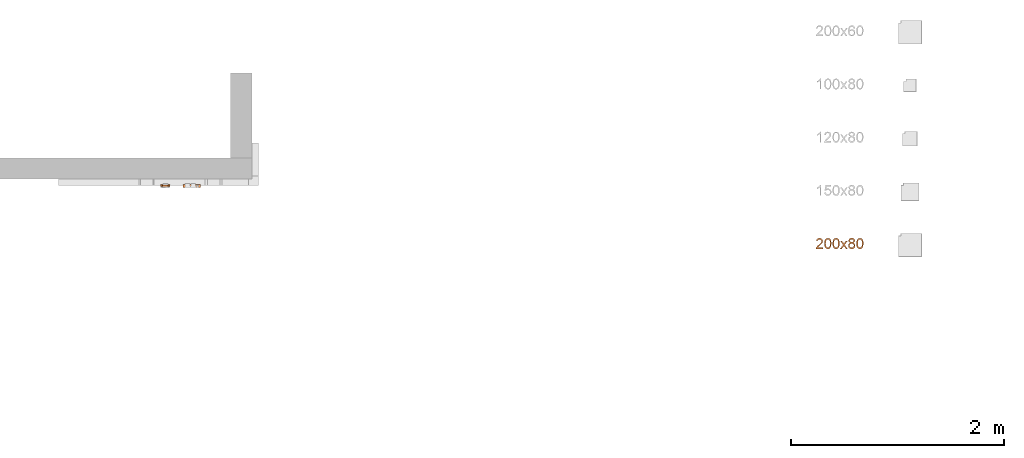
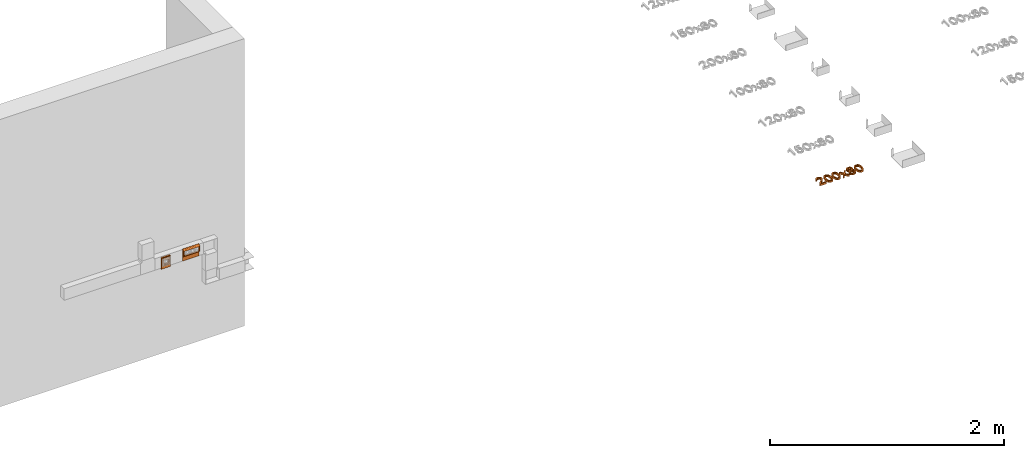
# One storey, part 40 of 71: 4 proxies, 1 opening.
"""IFC2X3 building model written with IfcOpenShell, lengths in millimetres."""

from ifc_helpers import new_model, entity, si_unit, converted_unit, derived_unit, direction, frame, frame_2d, origin, place, context, subcontext, project, spatial, polyline, circle_curve, parameter, trimmed, segment, composite_curve, circle, outline, extrude, faceted_brep, source, transform, mapped, material, type_object, type_shapes, element, save


model = new_model("IFC2X3")

# Units and contexts
model_context = context("Model", 3, precision=0.01, world=origin(), true_north=direction((6.12303176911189e-17, 1.0)))
body_context = subcontext(model_context, "Body", "Model", "MODEL_VIEW")
ifc_project = project(units=[si_unit("LENGTHUNIT", "METRE", prefix="MILLI"), si_unit("AREAUNIT", "SQUARE_METRE"), si_unit("VOLUMEUNIT", "CUBIC_METRE"), converted_unit("PLANEANGLEUNIT", "DEGREE", entity("IfcRatioMeasure", 0.0174532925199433), si_unit("PLANEANGLEUNIT", "RADIAN"), dimensions=[0, 0, 0, 0, 0, 0, 0]), si_unit("MASSUNIT", "GRAM", prefix="KILO"), derived_unit("MASSDENSITYUNIT", [(si_unit("MASSUNIT", "GRAM", prefix="KILO"), 1), (si_unit("LENGTHUNIT", "METRE"), -3)]), si_unit("TIMEUNIT", "SECOND"), si_unit("FREQUENCYUNIT", "HERTZ"), si_unit("THERMODYNAMICTEMPERATUREUNIT", "DEGREE_CELSIUS"), derived_unit("THERMALTRANSMITTANCEUNIT", [(si_unit("MASSUNIT", "GRAM", prefix="KILO"), 1), (si_unit("THERMODYNAMICTEMPERATUREUNIT", "KELVIN"), -1), (si_unit("TIMEUNIT", "SECOND"), -3)]), derived_unit("VOLUMETRICFLOWRATEUNIT", [(si_unit("LENGTHUNIT", "METRE"), 3), (si_unit("TIMEUNIT", "SECOND"), -1)]), si_unit("ELECTRICCURRENTUNIT", "AMPERE"), si_unit("ELECTRICVOLTAGEUNIT", "VOLT"), si_unit("POWERUNIT", "WATT"), si_unit("FORCEUNIT", "NEWTON", prefix="KILO"), si_unit("ILLUMINANCEUNIT", "LUX"), si_unit("LUMINOUSFLUXUNIT", "LUMEN"), si_unit("LUMINOUSINTENSITYUNIT", "CANDELA"), derived_unit("USERDEFINED", [(si_unit("MASSUNIT", "GRAM", prefix="KILO"), -1), (si_unit("LENGTHUNIT", "METRE"), -2), (si_unit("TIMEUNIT", "SECOND"), 3), (si_unit("LUMINOUSFLUXUNIT", "LUMEN"), 1)]), derived_unit("LINEARVELOCITYUNIT", [(si_unit("LENGTHUNIT", "METRE"), 1), (si_unit("TIMEUNIT", "SECOND"), -1)]), si_unit("PRESSUREUNIT", "PASCAL"), derived_unit("USERDEFINED", [(si_unit("LENGTHUNIT", "METRE"), -2), (si_unit("MASSUNIT", "GRAM", prefix="KILO"), 1), (si_unit("TIMEUNIT", "SECOND"), -2)])], contexts=[model_context])

# Site, building, storey
site_placement = place(None, origin())
site = spatial("IfcSite", under=ifc_project, at=site_placement, Name="Default", CompositionType="ELEMENT")
building_placement = place(site_placement, origin())
building = spatial("IfcBuilding", under=site, at=building_placement, Name="Наименование здания", CompositionType="ELEMENT")
storey_placement = place(building_placement, origin())
storey = spatial("IfcBuildingStorey", under=building, at=storey_placement, Name="Этаж 01", CompositionType="ELEMENT", Elevation=0.0)

# Proxy, opening
ifc_material = material(Name="DKC_Пластик_Белый")
building_element_proxy_type_1 = type_object("IfcBuildingElementProxyType", Name="Рамка суппорт PDA-N_DKC", PredefinedType="NOTDEFINED", material=ifc_material)
shared_shape_1 = source(origin(), body_context, "Body", "SweptSolid", [
    extrude(outline(polyline([(-9.46739966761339, -60.8500000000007), (-0.46739966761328, -60.8500000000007), (1.2884132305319, -60.7539264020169), (4.5327324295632, -60.0073480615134), (7.01582684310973, -58.6278511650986), (8.35966785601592, -56.8254516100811), (8.53260033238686, -55.8500000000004), (8.53260033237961, 55.8500000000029), (8.35966785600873, 56.8254516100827), (7.01582684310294, 58.6278511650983), (4.53273242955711, 60.0073480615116), (1.28841323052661, 60.7539264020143), (-0.467399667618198, 60.849999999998), (-9.4673996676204, 60.849999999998), (-9.4673996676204, 60.0), (-4.44752915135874, 60.0), (-3.30063243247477, 59.491791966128), (-1.52451496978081, 58.2011609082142), (-0.586965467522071, 56.6623066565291), (-0.467399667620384, 55.8500000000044), (-0.467399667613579, -55.8500000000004), (-0.586965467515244, -56.662306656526), (-1.52451496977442, -58.201160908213), (-3.30063243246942, -59.4917919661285), (-4.44752915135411, -60.0), (-9.4673996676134, -60.0), (-9.46739966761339, -60.8500000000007)])), frame((-44.0, -0.467399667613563, -10.0), z_axis=(1.0, 0.0, 0.0), x_axis=(0.0, -1.0, 0.0)), (0.0, 0.0, 1.0), 88.0),
])
type_shapes(building_element_proxy_type_1, [shared_shape_1])
proxy_1_placement = place(storey_placement, frame((6799.76236313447, -3869.74530671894, 1000.0)))
proxy_1 = element("IfcBuildingElementProxy", 1, at=proxy_1_placement, inside=storey, type_object=building_element_proxy_type_1, material=ifc_material, Name="КНС_РамкаСуппортPDA-N_ILC_DKC:Рамка суппорт PDA-N_DKC", ObjectType="Рамка суппорт PDA-N_DKC", context=body_context, shape_type="MappedRepresentation", body=[
    mapped(shared_shape_1, transform((0.0, 0.0, 0.0), scale=1.0)),
])
opening_placement = place(storey_placement, frame((6799.76236313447, -3869.74530671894, 1000.0)))
element("IfcOpeningElement", 2, at=opening_placement, cuts=proxy_1, Name="КНС_РамкаСуппортPDA-N_ILC_DKC:Рамка суппорт PDA-N_DKC:1", ObjectType="Opening", context=body_context, shape_type="SweptSolid", body=[
    extrude(circle(Radius=30.0, at=frame_2d((1.41033157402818e-17, -1.48386409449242e-13), x_axis=(1.0, 0.0))), frame((0.0, -9.0, 0.0), z_axis=(0.0, 1.0, 0.0), x_axis=(1.0, 0.0, 0.0)), (0.0, 0.0, 1.0), 9.00000000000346),
])

# Proxies
building_element_proxy_type_2 = type_object("IfcBuildingElementProxyType", Name="Серия \"Viva\"", PredefinedType="NOTDEFINED", material=ifc_material)
shared_shape_2 = source(origin(), body_context, "Body", "Brep", [
    faceted_brep([(-73.8192492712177, -18.0, 46.8192492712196), (-70.9686648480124, -18.0, 48.0), (-82.0, -18.0, 48.0), (-82.0, -18.0, -2.0), (-70.9686648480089, -18.0, -2.0), (-73.8192492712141, -18.0, -0.819249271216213), (-75.0, -18.0, 2.0313351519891), (-75.0, -18.0, 43.9686648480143), (82.0, -18.0, 48.0), (70.9686648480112, -18.0, 48.0), (73.8192492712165, -18.0, 46.8192492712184), (75.0, -18.0, 43.9686648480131), (75.0, -18.0, 2.03133515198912), (73.8192492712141, -18.0, -0.819249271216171), (70.9686648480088, -18.0, -2.0), (82.0, -18.0, -2.0), (82.0, -1.0, -60.0), (82.0, 8.40000000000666, -60.0), (82.0, 8.40000000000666, -59.0), (82.0, 0.0, -59.0), (82.0, 0.0, 59.0), (82.0, 8.40000000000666, 59.0), (82.0, 8.40000000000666, 60.0), (82.0, -1.0, 60.0), (82.0, -5.39126188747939, 59.4574348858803), (82.0, -9.51840787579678, 57.862372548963), (82.0, -13.1332075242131, 55.310749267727), (82.0, -16.018245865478, 51.9560344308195), (82.0, -16.0182458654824, -5.95603443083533), (82.0, -13.133207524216, -9.31074926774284), (82.0, -9.51840787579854, -11.8623725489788), (82.0, -5.39126188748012, -13.457434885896), (82.0, -1.0, -14.0), (-82.0, -1.0, 60.0), (-82.0, 8.40000000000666, 60.0), (-82.0, 8.40000000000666, 59.0), (-82.0, 0.0, 59.0), (-82.0, 0.0, -59.0), (-82.0, 8.40000000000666, -59.0), (-82.0, 8.40000000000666, -60.0), (-82.0, -1.0, -60.0), (-82.0, -1.0, -14.0), (-82.0, -5.39126188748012, -13.457434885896), (-82.0, -9.51840787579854, -11.8623725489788), (-82.0, -13.133207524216, -9.31074926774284), (-82.0, -16.0182458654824, -5.95603443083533), (-82.0, -16.018245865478, 51.9560344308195), (-82.0, -13.1332075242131, 55.310749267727), (-82.0, -9.51840787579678, 57.862372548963), (-82.0, -5.39126188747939, 59.4574348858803), (-7.84403318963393, -1.0, 60.0), (7.84408283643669, -1.0, -14.0), (75.0, 0.0, 2.03133515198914), (73.819249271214, 0.0, -0.819249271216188), (70.9686648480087, 0.0, -2.0), (-70.9686648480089, 0.0, -2.0), (-73.8192492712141, 0.0, -0.819249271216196), (-75.0, 0.0, 2.0313351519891), (-75.0, 0.0, 43.9686648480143), (-73.8192492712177, 0.0, 46.8192492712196), (-70.9686648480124, 0.0, 48.0), (75.0, 0.0, 43.9686648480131), (73.8192492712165, 0.0, 46.8192492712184), (70.9686648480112, 0.0, 48.0), (-1.05664262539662e-07, -7.50391799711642, 58.7869038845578), (10.4878486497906, -16.6040193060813, 51.0146194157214), (0.0, -18.0, 48.0), (-8.03406533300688e-08, -11.4043260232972, 56.6977951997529), (6.74916057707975e-08, -14.6789576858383, 53.7221699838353), (-10.7041046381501, -4.32349317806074, 59.6912442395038), (-10.4878486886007, -16.6040193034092, -5.01461942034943), (0.0, -18.0, -2.0), (-2.78578905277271e-08, -14.6789576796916, -7.72216999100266), (2.49660769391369e-08, -11.4043260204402, -10.6977952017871), (10.7041051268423, -4.32349317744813, -13.6912442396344), (-2.08968314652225e-08, -7.50391799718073, -12.7869038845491)], [[[0, 1, 2, 3, 4, 5, 6, 7]], [[8, 9, 10, 11, 12, 13, 14, 15]], [[16, 17, 18, 19, 20, 21, 22, 23, 24, 25, 26, 27, 8, 15, 28, 29, 30, 31, 32]], [[33, 34, 35, 36, 37, 38, 39, 40, 41, 42, 43, 44, 45, 3, 2, 46, 47, 48, 49]], [[22, 21, 35, 34]], [[18, 17, 39, 38]], [[22, 34, 33, 50, 23]], [[16, 32, 51, 41, 40]], [[17, 16, 40, 39]], [[19, 18, 38, 37]], [[19, 52, 20]], [[52, 19, 53]], [[54, 53, 19]], [[19, 37, 54]], [[55, 54, 37]], [[56, 55, 37]], [[37, 57, 56]], [[57, 37, 36]], [[36, 58, 57]], [[58, 36, 59]], [[60, 59, 36]], [[60, 36, 20]], [[61, 20, 52]], [[20, 61, 62]], [[62, 63, 20]], [[20, 63, 60]], [[21, 20, 36, 35]], [[64, 49, 48]], [[9, 65, 1, 66]], [[67, 48, 47]], [[67, 47, 68]], [[69, 49, 64]], [[23, 69, 24]], [[68, 26, 67]], [[25, 24, 64]], [[64, 67, 25]], [[26, 25, 67]], [[46, 2, 1]], [[9, 8, 27]], [[33, 69, 23, 50]], [[64, 48, 67]], [[27, 65, 9]], [[26, 68, 27]], [[68, 65, 27]], [[65, 46, 1]], [[24, 69, 64]], [[68, 47, 46]], [[46, 65, 68]], [[33, 49, 69]], [[4, 3, 45]], [[28, 15, 14]], [[4, 70, 14, 71]], [[72, 45, 44]], [[72, 44, 73]], [[70, 45, 72]], [[74, 42, 41]], [[45, 70, 4]], [[29, 28, 72]], [[75, 43, 42]], [[32, 74, 41, 51]], [[42, 74, 75]], [[74, 32, 31]], [[29, 73, 30]], [[75, 73, 43]], [[75, 31, 30]], [[74, 31, 75]], [[73, 29, 72]], [[70, 28, 14]], [[73, 44, 43]], [[28, 70, 72]], [[73, 75, 30]], [[60, 63, 9, 66, 1]], [[0, 59, 60, 1]], [[7, 58, 59, 0]], [[58, 7, 6, 57]], [[5, 56, 57, 6]], [[4, 55, 56, 5]], [[55, 4, 71, 14, 54]], [[13, 53, 54, 14]], [[12, 52, 53, 13]], [[52, 12, 11, 61]], [[10, 62, 61, 11]], [[9, 63, 62, 10]]]),
])
type_shapes(building_element_proxy_type_2, [shared_shape_2])
proxy_2_placement = place(storey_placement, frame((7049.76236313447, -3869.74530671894, 1000.0)))
element("IfcBuildingElementProxy", 3, at=proxy_2_placement, inside=storey, type_object=building_element_proxy_type_2, material=ifc_material, Name="КНС_РамкаСуппорт_ILC_DKC:Серия \"Viva\"", ObjectType="Серия \"Viva\"", context=body_context, shape_type="MappedRepresentation", body=[
    mapped(shared_shape_2, transform((0.0, 0.0, 0.0), scale=1.0)),
])
building_element_proxy_type_3 = type_object("IfcBuildingElementProxyType", Name="2 модуля", PredefinedType="NOTDEFINED", material=ifc_material)
shared_shape_3 = source(origin(), body_context, "Body", "SweptSolid", [
    extrude(outline(composite_curve([segment(trimmed(circle_curve(frame_2d((30.4500000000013, -30.4500000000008), x_axis=(1.0, 0.0)), 5.0), [parameter(270.0)], [parameter(4.07110999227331e-13)], True, "PARAMETER"), True, "CONTINUOUS"), segment(polyline([(35.4500000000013, -30.4500000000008), (35.4499999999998, 30.4500000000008)]), True, "CONTINUOUS"), segment(trimmed(circle_curve(frame_2d((30.4500000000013, 30.4500000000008), x_axis=(1.0, 0.0)), 5.0), [parameter(0.0)], [parameter(90.0000000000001)], True, "PARAMETER"), True, "CONTINUOUS"), segment(polyline([(30.4500000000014, 35.4500000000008), (-30.4500000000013, 35.4499999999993)]), True, "CONTINUOUS"), segment(trimmed(circle_curve(frame_2d((-30.4500000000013, 30.4500000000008), x_axis=(1.0, 0.0)), 5.0), [parameter(90.0000000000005)], [parameter(180.0)], True, "PARAMETER"), True, "CONTINUOUS"), segment(polyline([(-35.4500000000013, 30.4500000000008), (-35.4499999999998, -30.4500000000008)]), True, "CONTINUOUS"), segment(trimmed(circle_curve(frame_2d((-30.4500000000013, -30.4500000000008), x_axis=(1.0, 0.0)), 5.0), [parameter(180.0)], [parameter(270.0)], True, "PARAMETER"), True, "CONTINUOUS"), segment(polyline([(-30.4500000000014, -35.4500000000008), (30.4500000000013, -35.4499999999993)]), True, "CONTINUOUS")], self_intersect=False), holes=[polyline([(22.4499999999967, -22.6231856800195), (-22.4499999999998, -22.6231856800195), (-22.4499999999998, 22.6231856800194), (22.4499999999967, 22.6231856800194), (22.4499999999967, -22.6231856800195)]), composite_curve([segment(trimmed(circle_curve(frame_2d((-3.26091416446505, -30.4535697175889), x_axis=(1.0, 0.0)), 0.68410650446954), [parameter(49.0742782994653)], [parameter(220.925721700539)], True, "PARAMETER"), False, "CONTINUOUS"), segment(trimmed(circle_curve(frame_2d((0.0, -25.802883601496), x_axis=(1.0, 0.0)), 5.0), [parameter(235.767396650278)], [parameter(310.925721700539)], True, "PARAMETER"), True, "CONTINUOUS"), segment(trimmed(circle_curve(frame_2d((5.53735974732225, -30.4923960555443), x_axis=(1.0, 0.0)), 2.43878756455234), [parameter(201.952605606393)], [parameter(158.047394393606)], True, "PARAMETER"), False, "CONTINUOUS"), segment(trimmed(circle_curve(frame_2d((0.0, -27.6263138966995), x_axis=(1.0, 0.0)), 5.0), [parameter(220.925721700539)], [parameter(310.925721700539)], True, "PARAMETER"), False, "CONTINUOUS")], self_intersect=False), composite_curve([segment(trimmed(circle_curve(frame_2d((3.26091416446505, 30.453569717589), x_axis=(1.0, 0.0)), 0.68410650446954), [parameter(229.074278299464)], [parameter(40.925721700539)], True, "PARAMETER"), False, "CONTINUOUS"), segment(trimmed(circle_curve(frame_2d((0.0, 25.8028836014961), x_axis=(1.0, 0.0)), 5.0), [parameter(55.7673966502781)], [parameter(130.92572170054)], True, "PARAMETER"), True, "CONTINUOUS"), segment(trimmed(circle_curve(frame_2d((-5.53735974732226, 30.4923960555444), x_axis=(1.0, 0.0)), 2.43878756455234), [parameter(21.9526056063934)], [parameter(338.047394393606)], True, "PARAMETER"), False, "CONTINUOUS"), segment(trimmed(circle_curve(frame_2d((0.0, 27.6263138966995), x_axis=(1.0, 0.0)), 5.0), [parameter(40.92572170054)], [parameter(130.92572170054)], True, "PARAMETER"), False, "CONTINUOUS")], self_intersect=False), composite_curve([segment(trimmed(circle_curve(frame_2d((30.4535697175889, -3.26091416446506), x_axis=(1.0, 0.0)), 0.68410650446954), [parameter(139.074278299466)], [parameter(310.925721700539)], True, "PARAMETER"), False, "CONTINUOUS"), segment(trimmed(circle_curve(frame_2d((25.802883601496, 0.0), x_axis=(1.0, 0.0)), 5.0), [parameter(325.767396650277)], [parameter(40.925721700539)], True, "PARAMETER"), True, "CONTINUOUS"), segment(trimmed(circle_curve(frame_2d((30.4923960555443, 5.53735974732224), x_axis=(1.0, 0.0)), 2.43878756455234), [parameter(291.952605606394)], [parameter(248.047394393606)], True, "PARAMETER"), False, "CONTINUOUS"), segment(trimmed(circle_curve(frame_2d((27.6263138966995, 0.0), x_axis=(1.0, 0.0)), 5.0), [parameter(310.925721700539)], [parameter(40.9257217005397)], True, "PARAMETER"), False, "CONTINUOUS")], self_intersect=False), composite_curve([segment(trimmed(circle_curve(frame_2d((-30.453569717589, 3.26091416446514), x_axis=(1.0, 0.0)), 0.68410650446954), [parameter(319.074278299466)], [parameter(130.92572170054)], True, "PARAMETER"), False, "CONTINUOUS"), segment(trimmed(circle_curve(frame_2d((-25.802883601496, 0.0), x_axis=(1.0, 0.0)), 5.0), [parameter(145.767396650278)], [parameter(220.925721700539)], True, "PARAMETER"), True, "CONTINUOUS"), segment(trimmed(circle_curve(frame_2d((-30.4923960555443, -5.53735974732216), x_axis=(1.0, 0.0)), 2.43878756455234), [parameter(111.952605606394)], [parameter(68.0473943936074)], True, "PARAMETER"), False, "CONTINUOUS"), segment(trimmed(circle_curve(frame_2d((-27.6263138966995, 0.0), x_axis=(1.0, 0.0)), 5.0), [parameter(130.92572170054)], [parameter(220.925721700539)], True, "PARAMETER"), False, "CONTINUOUS")], self_intersect=False), composite_curve([segment(trimmed(circle_curve(frame_2d((-30.4923960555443, -30.4923960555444), x_axis=(1.0, 0.0)), 1.70712903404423), [parameter(4.07110999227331e-13)], [parameter(180.0)], True, "PARAMETER"), False, "CONTINUOUS"), segment(trimmed(circle_curve(frame_2d((-30.4923960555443, -30.4923960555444), x_axis=(1.0, 0.0)), 1.70712903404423), [parameter(180.0)], [parameter(360.0)], True, "PARAMETER"), False, "CONTINUOUS")], self_intersect=False), composite_curve([segment(trimmed(circle_curve(frame_2d((-30.4923960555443, 30.4923960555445), x_axis=(1.0, 0.0)), 1.70712903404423), [parameter(4.07110999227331e-13)], [parameter(180.0)], True, "PARAMETER"), False, "CONTINUOUS"), segment(trimmed(circle_curve(frame_2d((-30.4923960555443, 30.4923960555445), x_axis=(1.0, 0.0)), 1.70712903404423), [parameter(180.0)], [parameter(360.0)], True, "PARAMETER"), False, "CONTINUOUS")], self_intersect=False), composite_curve([segment(trimmed(circle_curve(frame_2d((30.4923960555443, -30.4923960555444), x_axis=(1.0, 0.0)), 1.70712903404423), [parameter(4.07110999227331e-13)], [parameter(180.0)], True, "PARAMETER"), False, "CONTINUOUS"), segment(trimmed(circle_curve(frame_2d((30.4923960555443, -30.4923960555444), x_axis=(1.0, 0.0)), 1.70712903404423), [parameter(180.0)], [parameter(360.0)], True, "PARAMETER"), False, "CONTINUOUS")], self_intersect=False), composite_curve([segment(trimmed(circle_curve(frame_2d((30.4923960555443, 30.4923960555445), x_axis=(1.0, 0.0)), 1.70712903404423), [parameter(4.07110999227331e-13)], [parameter(180.0)], True, "PARAMETER"), False, "CONTINUOUS"), segment(trimmed(circle_curve(frame_2d((30.4923960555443, 30.4923960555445), x_axis=(1.0, 0.0)), 1.70712903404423), [parameter(180.0)], [parameter(360.0)], True, "PARAMETER"), False, "CONTINUOUS")], self_intersect=False)]), frame((0.0, -2.0, 0.0), z_axis=(0.0, 1.0, 0.0), x_axis=(1.0, 0.0, 0.0)), (0.0, 0.0, 1.0), 2.0),
    extrude(outline(polyline([(-25.6231856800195, -25.4500000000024), (25.6231856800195, -25.4500000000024), (25.6231856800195, 25.4500000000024), (-25.6231856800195, 25.4500000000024), (-25.6231856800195, -25.4500000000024)]), holes=[polyline([(-22.6231856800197, -22.4499999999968), (-22.6231856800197, 22.4499999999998), (22.6231856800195, 22.4499999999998), (22.6231856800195, -22.4499999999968), (-22.6231856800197, -22.4499999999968)])]), frame((0.0, 0.0, 0.0), z_axis=(0.0, 1.0, 0.0), x_axis=(0.0, 0.0, -1.0)), (0.0, 0.0, 1.0), 15.0),
])
type_shapes(building_element_proxy_type_3, [shared_shape_3])
proxy_3_placement = place(storey_placement, frame((6799.76236313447, -3878.74530671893, 1000.0)))
element("IfcBuildingElementProxy", 4, at=proxy_3_placement, inside=storey, type_object=building_element_proxy_type_3, material=ifc_material, Name="КНС_КаркасНа2Модуля(одноместный)БезЛапок_DKC:2 модуля", ObjectType="2 модуля", context=body_context, shape_type="MappedRepresentation", body=[
    mapped(shared_shape_3, transform((0.0, 0.0, 0.0), scale=1.0)),
])
proxy_4_placement = place(storey_placement, origin())
element("IfcBuildingElementProxy", 5, at=proxy_4_placement, inside=storey, Name="Текст модели:100 мм Arial", ObjectType="Текст модели:100 мм Arial", context=body_context, shape_type="SweptSolid", body=[
    extrude(outline(polyline([(-32.3858783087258, -45.1669477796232), (-32.3858783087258, -57.7239865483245), (33.5385752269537, -57.7239865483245), (32.1896745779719, -49.0664969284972), (24.5622545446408, -35.7369059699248), (8.84143061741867, -21.1810416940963), (-12.8390816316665, -0.260818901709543), (-18.2592096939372, 13.9639515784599), (-13.1456499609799, 25.4786580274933), (0.208466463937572, 30.1752848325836), (14.126668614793, 25.5890226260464), (19.4119066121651, 12.9093565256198), (31.9689453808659, 14.4789863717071), (28.9247218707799, 26.6252235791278), (22.3426998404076, 35.4973110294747), (12.5662358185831, 40.9235704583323), (-0.0613136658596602, 42.7323236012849), (-12.7808336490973, 40.721235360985), (-22.5389035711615, 34.6879706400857), (-28.7469122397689, 25.6748617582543), (-30.8162484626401, 14.7242410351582), (-28.5844310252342, 2.81712712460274), (-21.1654774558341, -9.49465698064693), (-3.1760478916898, -26.6992716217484), (11.2694517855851, -38.7780637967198), (16.9348345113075, -45.1669477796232), (-32.3858783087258, -45.1669477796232)])), frame((12952.4125507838, -4405.61126925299, 0.0), z_axis=(0.0, 0.0, -1.0), x_axis=(-1.0, 0.0, 0.0)), (0.0, 0.0, -1.0), 20.0),
    extrude(outline(polyline([(-7.0288431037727, -33.3490673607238), (17.5323805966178, -33.3490673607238), (35.1984171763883, -27.6137612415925), (43.3439841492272, -18.4876517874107), (47.0516941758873, -5.75150665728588), (46.7162020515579, 4.48638208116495), (43.4465778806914, 13.0955287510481), (27.9444305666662, 25.665911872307), (-0.31433837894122, 32.2325535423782), (-24.0296505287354, 32.3678288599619), (-39.4143020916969, 28.0260881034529), (-49.7293680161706, 18.9002174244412), (-54.4436715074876, 4.63998875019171), (-50.867658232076, -14.1301059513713), (-35.4058547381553, -26.7333390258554), (-7.0288431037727, -33.3490673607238)]), holes=[polyline([(-5.77428774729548, -20.8548320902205), (-25.0157644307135, -17.3562860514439), (-36.7257089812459, -11.5717922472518), (-41.0962588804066, -4.7759968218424), (-41.9669219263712, 3.21464792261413), (-39.2244253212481, 11.2791292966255), (-32.865406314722, 17.2229259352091), (-20.969837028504, 20.2947501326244), (-1.61768958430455, 19.7433141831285), (17.8514140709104, 16.2707701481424), (28.7803640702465, 10.7141596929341), (33.5546988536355, 3.61815959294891), (34.5599568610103, -4.47255337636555), (31.9421230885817, -12.1923199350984), (25.8471825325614, -18.1754808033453), (14.0250679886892, -21.402747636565), (-5.77428774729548, -20.8548320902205)])]), frame((13031.2470054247, -4417.51207886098, 0.0), z_axis=(0.0, 0.0, 1.0), x_axis=(0.1018515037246, -0.994799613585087, 0.0)), (0.0, 0.0, 1.0), 20.0),
    extrude(outline(polyline([(-7.0288431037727, -33.3490673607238), (17.5323805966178, -33.3490673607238), (35.1984171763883, -27.6137612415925), (43.3439841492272, -18.4876517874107), (47.0516941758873, -5.75150665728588), (46.7162020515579, 4.48638208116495), (43.4465778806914, 13.0955287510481), (27.9444305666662, 25.665911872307), (-0.31433837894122, 32.2325535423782), (-24.0296505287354, 32.3678288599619), (-39.4143020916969, 28.0260881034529), (-49.7293680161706, 18.9002174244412), (-54.4436715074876, 4.63998875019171), (-50.867658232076, -14.1301059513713), (-35.4058547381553, -26.7333390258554), (-7.0288431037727, -33.3490673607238)]), holes=[polyline([(-5.77428774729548, -20.8548320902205), (-25.0157644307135, -17.3562860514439), (-36.7257089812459, -11.5717922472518), (-41.0962588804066, -4.7759968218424), (-41.9669219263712, 3.21464792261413), (-39.2244253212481, 11.2791292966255), (-32.865406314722, 17.2229259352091), (-20.969837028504, 20.2947501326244), (-1.61768958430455, 19.7433141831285), (17.8514140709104, 16.2707701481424), (28.7803640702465, 10.7141596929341), (33.5546988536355, 3.61815959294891), (34.5599568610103, -4.47255337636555), (31.9421230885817, -12.1923199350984), (25.8471825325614, -18.1754808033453), (14.0250679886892, -21.402747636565), (-5.77428774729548, -20.8548320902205)])]), frame((13108.158867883, -4417.51207886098, 0.0), z_axis=(0.0, 0.0, 1.0), x_axis=(0.1018515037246, -0.994799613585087, 0.0)), (0.0, 0.0, 1.0), 20.0),
    extrude(outline(polyline([(-34.5302215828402, -38.4265006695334), (-19.4225343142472, -38.4265006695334), (-0.341721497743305, -12.0616243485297), (2.478707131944, -16.1328517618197), (17.8561745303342, -38.4265006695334), (32.9638617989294, -38.4265006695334), (7.40832586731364, -1.34399555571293), (33.9448804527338, 35.3461020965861), (18.8371931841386, 35.3461020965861), (4.95577923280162, 16.1671874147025), (0.0261604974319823, 9.34910777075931), (-5.66374769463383, 17.6877663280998), (-17.8529044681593, 35.3461020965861), (-32.9605917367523, 35.3461020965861), (-7.69936140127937, -1.34399555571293), (-34.5302215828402, -38.4265006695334)])), frame((13181.0005248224, -4424.90875513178, 0.0)), (0.0, 0.0, 1.0), 20.0),
    extrude(outline(polyline([(10.1224324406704, -11.2212127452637), (26.4477736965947, -11.2212127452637), (39.686138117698, -0.0909413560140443), (44.6322314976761, 11.3078156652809), (44.5856416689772, 23.4168603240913), (39.6073830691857, 34.8346290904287), (29.7584701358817, 44.1595584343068), (17.4236057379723, 49.795656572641), (4.98749274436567, 50.1469317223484), (-6.20047708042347, 45.7236060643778), (-14.7909119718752, 37.0359017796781), (-20.0781666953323, 21.0056847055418), (-14.5070621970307, 5.37692494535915), (-28.0684052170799, 5.15563707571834), (-37.7221714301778, -2.60845010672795), (-41.5236361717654, -11.935700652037), (-41.0036870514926, -22.2232653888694), (-36.1916154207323, -32.1870777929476), (-27.1167126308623, -40.5430713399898), (-16.0503295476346, -45.812309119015), (-5.18246445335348, -46.5706787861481), (4.3845330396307, -43.2361071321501), (11.5483133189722, -36.2265209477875), (15.2516244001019, -24.0826582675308), (10.1224324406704, -11.2212127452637)]), holes=[polyline([(29.0262968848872, 6.56051660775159), (17.1806533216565, -1.51571690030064), (9.68494123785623, -1.27757268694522), (1.95268767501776, 2.32885586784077), (-4.46267094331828, 8.27886886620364), (-7.64161156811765, 15.3010558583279), (-4.59707955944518, 29.6929468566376), (7.31333657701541, 37.799466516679), (14.8367372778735, 37.487209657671), (22.6595729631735, 33.8012523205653), (30.3730358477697, 25.5864099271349), (32.5711030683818, 15.5727469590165), (29.0262968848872, 6.56051660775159)]), polyline([(1.34077476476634, -28.903904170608), (-7.53771017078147, -33.9815875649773), (-20.2415350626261, -30.0339976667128), (-28.5905650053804, -19.6902819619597), (-26.9800933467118, -9.13787919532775), (-18.1108932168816, -3.87648928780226), (-5.45128168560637, -7.82385811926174), (3.1592702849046, -18.2403048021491), (1.34077476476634, -28.903904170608)])]), frame((13254.7737407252, -4411.65422231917, 0.0), z_axis=(0.0, 0.0, 1.0), x_axis=(-0.829266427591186, -0.558853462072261, 0.0)), (0.0, 0.0, 1.0), 20.0),
    extrude(outline(polyline([(-7.02884310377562, -33.3490673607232), (17.5323805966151, -33.3490673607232), (35.1984171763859, -27.6137612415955), (43.3439841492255, -18.4876517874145), (47.051694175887, -5.75150665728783), (46.7162020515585, 4.48638208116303), (43.4465778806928, 13.0955287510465), (27.9444305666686, 25.6659118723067), (-0.314338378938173, 32.2325535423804), (-24.0296505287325, 32.367828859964), (-39.4143020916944, 28.0260881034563), (-49.729368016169, 18.9002174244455), (-54.4436715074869, 4.63998875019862), (-50.8676582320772, -14.1301059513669), (-35.4058547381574, -26.7333390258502), (-7.02884310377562, -33.3490673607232)]), holes=[polyline([(-5.77428774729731, -20.85483209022), (-25.0157644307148, -17.3562860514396), (-36.7257089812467, -11.5717922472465), (-41.0962588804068, -4.77599682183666), (-41.9669219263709, 3.21464792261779), (-39.2244253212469, 11.2791292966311), (-32.8654063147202, 17.2229259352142), (-20.9698370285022, 20.2947501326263), (-1.61768958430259, 19.7433141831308), (17.851414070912, 16.270770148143), (28.7803640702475, 10.7141596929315), (33.554698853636, 3.61815959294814), (34.5599568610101, -4.47255337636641), (31.9421230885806, -12.1923199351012), (25.8471825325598, -18.1754808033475), (14.0250679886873, -21.4027476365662), (-5.77428774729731, -20.85483209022)])]), frame((13332.6159358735, -4417.51207886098, 0.0), z_axis=(0.0, 0.0, 1.0), x_axis=(0.101851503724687, -0.994799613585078, 0.0)), (0.0, 0.0, 1.0), 20.0),
])

save(model, "model.ifc")
